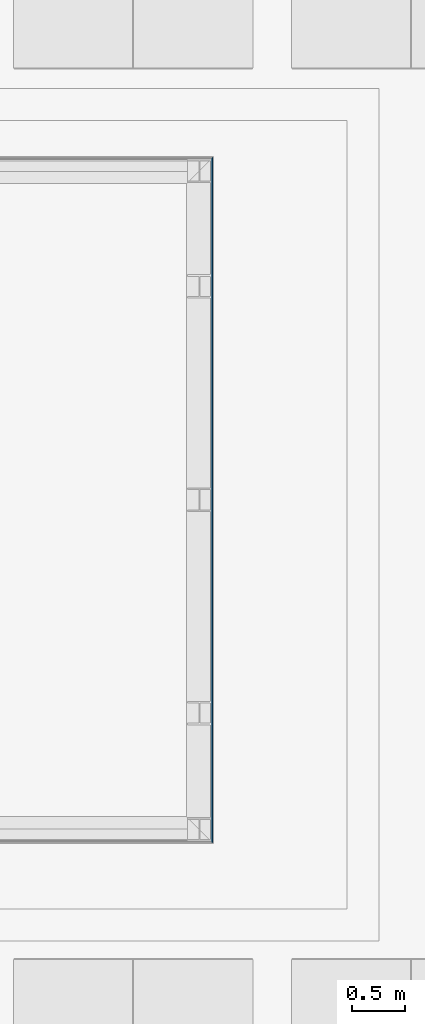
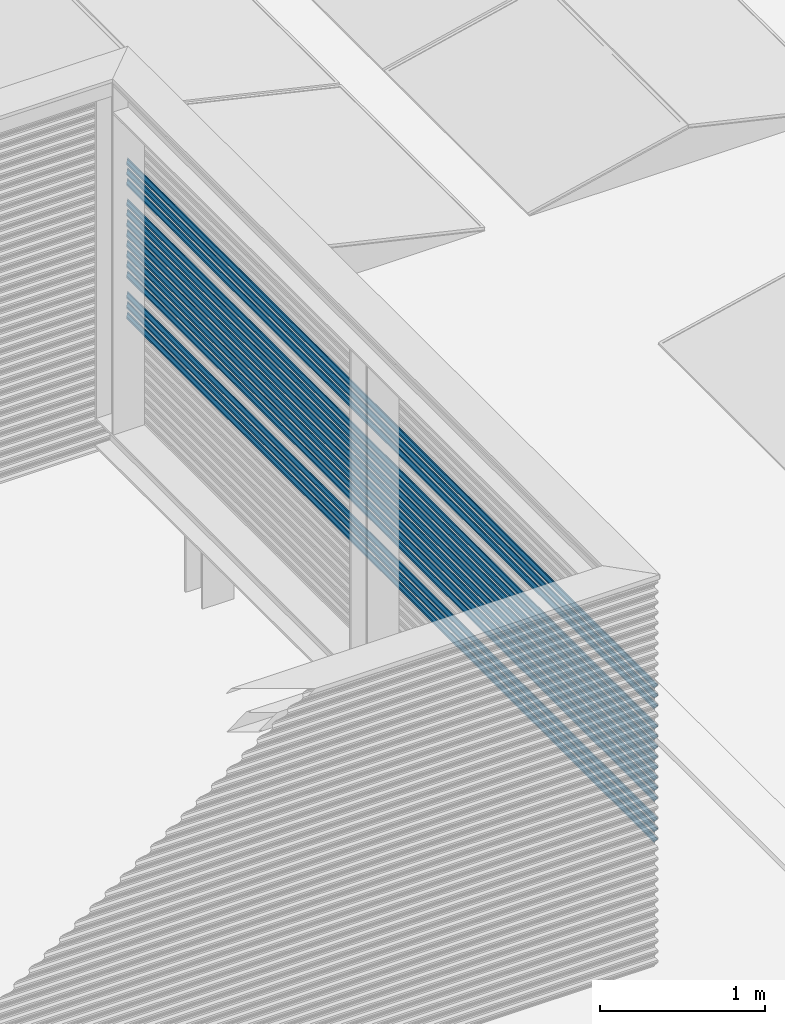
# One storey, part 38 of 63: 14 building element parts, 1 element without a shape of its own.
"""IFC2X3 building model written with IfcOpenShell, lengths in millimetres."""

import ifcopenshell
import ifcopenshell.guid

model = None  # the IFC model being written
_history = None  # IfcOwnerHistory: only IFC2X3 demands one
_inside = {}  # id of a spatial element -> (the spatial element, [elements in it])
_under = {}  # id of a project, library or spatial element -> (it, [spatial elements below it])
_declared = {}  # id of a project -> (the project, [libraries it declares])
_typed = {}  # id of a type object -> (the type object, [elements of that type])
_made_of = {}  # id of a material, layer set ... -> (it, [elements and type objects made of it])


def new_model(schema):
    """Start an empty IFC model of exactly this schema.

    Asked for "IFC4X3", IfcOpenShell would pick the latest addendum, in which some entities
    have other attributes; the version numbers below select the first issue.
    IFC2X3 requires an IfcOwnerHistory on every rooted entity: one is made here for all.
    """
    global model, _history
    if schema == "IFC4X3":
        model = ifcopenshell.file(schema_version=(4, 3, 0, 0))
    else:
        model = ifcopenshell.file(schema=schema)
    _inside.clear()
    _under.clear()
    _declared.clear()
    _typed.clear()
    _made_of.clear()
    _history = None
    if model.schema == "IFC2X3":
        org = make("IfcOrganization", Name="unknown")
        user = make(
            "IfcPersonAndOrganization",
            ThePerson=make("IfcPerson", FamilyName="unknown"),
            TheOrganization=org,
        )
        app = make(
            "IfcApplication",
            ApplicationDeveloper=org,
            Version="unknown",
            ApplicationFullName="unknown",
            ApplicationIdentifier="unknown",
        )
        _history = make(
            "IfcOwnerHistory",
            OwningUser=user,
            OwningApplication=app,
            ChangeAction="ADDED",
            CreationDate=0,
        )
    return model


def make(cls, **values):
    """One entity of the class cls with the attributes given. An attribute that is None is left unset."""
    return model.create_entity(
        cls, **{name: value for name, value in values.items() if value is not None}
    )


def entity(cls, *values):
    """Any entity or typed value of the class cls, its attributes in the order of the schema. None: left unset."""
    e = model.create_entity(cls)
    for i, value in enumerate(values):
        if value is not None:
            e[i] = value
    return e


def rooted(cls, **values):
    """An entity with a GlobalId (a new one), such as an element, a storey or a relation."""
    return make(cls, GlobalId=ifcopenshell.guid.new(), OwnerHistory=_history, **values)


def si_unit(unit_type, name, prefix=None):
    """IfcSIUnit, for example si_unit("LENGTHUNIT", "METRE", prefix="MILLI")."""
    return make("IfcSIUnit", UnitType=unit_type, Prefix=prefix, Name=name)


def converted_unit(unit_type, name, factor, base, dimensions=None, offset=None):
    """IfcConversionBasedUnit, such as the inch: factor (a typed value) times the base unit."""
    return make(
        "IfcConversionBasedUnit"
        if offset is None
        else "IfcConversionBasedUnitWithOffset",
        ConversionOffset=offset,
        Dimensions=None
        if dimensions is None
        else entity("IfcDimensionalExponents", *dimensions),
        UnitType=unit_type,
        Name=name,
        ConversionFactor=make(
            "IfcMeasureWithUnit", ValueComponent=factor, UnitComponent=base
        ),
    )


def derived_unit(unit_type, elements):
    """IfcDerivedUnit: a product of units, each with its exponent."""
    return make(
        "IfcDerivedUnit",
        Elements=[
            make("IfcDerivedUnitElement", Unit=unit, Exponent=power)
            for unit, power in elements
        ],
        UnitType=unit_type,
    )


def money_unit(currency):
    """IfcMonetaryUnit."""
    return make("IfcMonetaryUnit", Currency=currency)


def assignment(units):
    """IfcUnitAssignment: the units of a project."""
    return None if units is None else make("IfcUnitAssignment", Units=units)


def point(xyz):
    """IfcCartesianPoint."""
    return None if xyz is None else make("IfcCartesianPoint", Coordinates=xyz)


def direction(xyz):
    """IfcDirection."""
    return None if xyz is None else make("IfcDirection", DirectionRatios=xyz)


def frame(location, z_axis=None, x_axis=None):
    """IfcAxis2Placement3D, a coordinate frame: its origin and axes. An axis left out is left unset."""
    return make(
        "IfcAxis2Placement3D",
        Location=point(location),
        Axis=direction(z_axis),
        RefDirection=direction(x_axis),
    )


def origin_with_axes():
    """The frame at (0, 0, 0) with the z axis (0, 0, 1) and the x axis (1, 0, 0) written out."""
    return frame((0.0, 0.0, 0.0), z_axis=(0.0, 0.0, 1.0), x_axis=(1.0, 0.0, 0.0))


def place(relative_to, where):
    """IfcLocalPlacement: puts the frame where relative to a parent placement (None: the world)."""
    return make(
        "IfcLocalPlacement", PlacementRelTo=relative_to, RelativePlacement=where
    )


def context(
    kind, dimensions, precision=None, world=None, true_north=None, identifier=None
):
    """IfcGeometricRepresentationContext, for example the 3D "Model" context."""
    return make(
        "IfcGeometricRepresentationContext",
        ContextIdentifier=identifier,
        ContextType=kind,
        CoordinateSpaceDimension=dimensions,
        Precision=precision,
        WorldCoordinateSystem=world,
        TrueNorth=true_north,
    )


def subcontext(parent, identifier, kind, view, scale=None):
    """IfcGeometricRepresentationSubContext, for example "Body" below "Model"."""
    return make(
        "IfcGeometricRepresentationSubContext",
        ContextIdentifier=identifier,
        ContextType=kind,
        ParentContext=parent,
        TargetScale=scale,
        TargetView=view,
    )


def project(units=None, contexts=None):
    """IfcProject with its units and contexts."""
    return rooted(
        "IfcProject",
        Name="project",
        RepresentationContexts=contexts,
        UnitsInContext=assignment(units),
    )


def spatial(cls, under=None, at=None, **own):
    """A site, building, storey or space (cls), placed at a placement, below another one or the project."""
    s = rooted(cls, ObjectPlacement=at, **own)
    if under is not None:
        _under.setdefault(under.id(), (under, []))[1].append(s)
    return s


def faces_of(points, faces, orient=None, outer=None):
    """IfcFace entities. A face is a list of loops; a loop is a list of indices into points, from 0.

    orient and outer hold one flag for each loop. By default every Orientation is true, the
    first loop of a face is its IfcFaceOuterBound and the others are IfcFaceBound.
    """
    made = []
    for i, loops in enumerate(faces):
        bounds = []
        for j, loop in enumerate(loops):
            is_outer = j == 0 if outer is None else outer[i][j]
            bounds.append(
                make(
                    "IfcFaceOuterBound" if is_outer else "IfcFaceBound",
                    Bound=make("IfcPolyLoop", Polygon=[points[k] for k in loop]),
                    Orientation=True if orient is None else orient[i][j],
                )
            )
        made.append(make("IfcFace", Bounds=bounds))
    return made


def faceted_brep(points, faces, orient=None, outer=None, voids=None):
    """IfcFacetedBrep: a solid bounded by flat faces; with voids (closed shells), ...WithVoids."""
    shared = [point(p) for p in points]
    hull = make("IfcClosedShell", CfsFaces=faces_of(shared, faces, orient, outer))
    if voids is None:
        return make("IfcFacetedBrep", Outer=hull)
    return make(
        "IfcFacetedBrepWithVoids",
        Outer=hull,
        Voids=[
            make(cls, CfsFaces=faces_of(shared, fs, o, b)) for cls, fs, o, b in voids
        ],
    )


def shape(context_of_items, identifier, shape_type, items):
    """IfcShapeRepresentation: the items that make up one representation, for example the "Body"."""
    return make(
        "IfcShapeRepresentation",
        ContextOfItems=context_of_items,
        RepresentationIdentifier=identifier,
        RepresentationType=shape_type,
        Items=items,
    )


def material(Name=None, Category=None):
    """IfcMaterial."""
    return make("IfcMaterial", Name=Name, Category=Category)


def made_of(thing, what):
    """Note that an element or type object is made of a material, layer set ...; save() writes the relation."""
    if what is not None:
        _made_of.setdefault(what.id(), (what, []))[1].append(thing)
    return thing


def type_object(cls, material=None, **own):
    """A type object (cls), such as IfcWallType, which elements share."""
    return made_of(rooted(cls, **own), material)


def element(
    cls,
    number,
    at=None,
    inside=None,
    cuts=None,
    type_object=None,
    material=None,
    context=None,
    identifier="Body",
    shape_type=None,
    held_by="IfcProductDefinitionShape",
    body=None,
    shapes=None,
    **own,
):
    """One element of the class cls, such as IfcWall. Its Tag is "e" and its number.

    at: its placement. inside: the storey or other place that contains it. cuts: it is an
    opening in that element (IfcRelVoidsElement). A single representation is given by context,
    identifier, shape_type and body (its items); several are given by shapes. held_by: the class
    of the entity that holds the representations. save() writes the other relations.
    """
    e = rooted(cls, Tag="e%d" % number, ObjectPlacement=at, **own)
    if body is not None:
        shapes = [shape(context, identifier, shape_type, body)]
    if shapes is not None:
        e.Representation = make(held_by, Representations=shapes)
    if inside is not None:
        _inside.setdefault(inside.id(), (inside, []))[1].append(e)
    if cuts is not None:
        rooted(
            "IfcRelVoidsElement", RelatingBuildingElement=cuts, RelatedOpeningElement=e
        )
    if type_object is not None:
        _typed.setdefault(type_object.id(), (type_object, []))[1].append(e)
    return made_of(e, material)


def aggregate(whole, parts):
    """IfcRelAggregates: a whole, such as a stair, and the parts it consists of."""
    return rooted("IfcRelAggregates", RelatingObject=whole, RelatedObjects=parts)


def save(model, path):
    """Write the relations noted so far, then the file.

    IfcRelAggregates (storeys below a building ...), IfcRelContainedInSpatialStructure (elements
    in a storey), IfcRelDefinesByType, IfcRelAssociatesMaterial and IfcRelDeclares: one each for
    every whole, place, type object, material and project.
    """
    for whole, parts in _under.values():
        aggregate(whole, parts)
    for where, things in _inside.values():
        rooted(
            "IfcRelContainedInSpatialStructure",
            RelatedElements=things,
            RelatingStructure=where,
        )
    for kind, things in _typed.values():
        rooted("IfcRelDefinesByType", RelatedObjects=things, RelatingType=kind)
    for what, things in _made_of.values():
        rooted("IfcRelAssociatesMaterial", RelatedObjects=things, RelatingMaterial=what)
    for by, libraries in _declared.values():
        rooted("IfcRelDeclares", RelatingContext=by, RelatedDefinitions=libraries)
    model.write(path)


model = new_model("IFC2X3")

# Units and contexts
model_context = context("Model", 3, precision=0.01, world=origin_with_axes(), true_north=direction((0.0, 1.0)))
body_context = subcontext(model_context, "Body", "Model", "MODEL_VIEW")
ifc_project = project(units=[si_unit("LENGTHUNIT", "METRE", prefix="MILLI"), si_unit("AREAUNIT", "SQUARE_METRE"), si_unit("VOLUMEUNIT", "CUBIC_METRE"), converted_unit("PLANEANGLEUNIT", "DEGREE", entity("IfcPlaneAngleMeasure", 0.0174532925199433), si_unit("PLANEANGLEUNIT", "RADIAN"), dimensions=[0, 0, 0, 0, 0, 0, 0]), money_unit("EUR"), converted_unit("TIMEUNIT", "Year", entity("IfcTimeMeasure", 31557600.0), si_unit("TIMEUNIT", "SECOND"), dimensions=[0, 0, 1, 0, 0, 0, 0]), si_unit("MASSUNIT", "GRAM", prefix="KILO"), si_unit("THERMODYNAMICTEMPERATUREUNIT", "DEGREE_CELSIUS"), si_unit("LUMINOUSINTENSITYUNIT", "LUMEN"), si_unit("ENERGYUNIT", "JOULE", prefix="MEGA"), derived_unit("THERMALCONDUCTANCEUNIT", [(si_unit("POWERUNIT", "WATT"), 1), (si_unit("LENGTHUNIT", "METRE"), -1), (si_unit("THERMODYNAMICTEMPERATUREUNIT", "KELVIN"), -1)]), derived_unit("SPECIFICHEATCAPACITYUNIT", [(si_unit("ENERGYUNIT", "JOULE"), 1), (si_unit("MASSUNIT", "GRAM", prefix="KILO"), -1), (si_unit("THERMODYNAMICTEMPERATUREUNIT", "KELVIN"), -1)]), derived_unit("MASSDENSITYUNIT", [(si_unit("MASSUNIT", "GRAM", prefix="KILO"), 1), (si_unit("VOLUMEUNIT", "CUBIC_METRE"), -1)])], contexts=[model_context])

# Site, building, storey
site_placement = place(None, origin_with_axes())
site = spatial("IfcSite", under=ifc_project, at=site_placement, Name="<site naam>", CompositionType="ELEMENT")
building_placement = place(site_placement, origin_with_axes())
building = spatial("IfcBuilding", under=site, at=building_placement, Name="<Naam gebouw>", CompositionType="ELEMENT")
storey_placement = place(building_placement, frame((0.0, 0.0, 12770.0), z_axis=(0.0, 0.0, 1.0), x_axis=(1.0, 0.0, 0.0)))
storey = spatial("IfcBuildingStorey", under=building, at=storey_placement, Name="04 4e verdieping", CompositionType="ELEMENT", Elevation=12770.0)

# Wall, building element parts
wall_type = type_object("IfcWallType", Name="Gevelbeplating golf 18 x 2900", PredefinedType="NOTDEFINED")
wall_placement = place(storey_placement, frame((58128.00007858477, 6781.999921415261, 299.9552842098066), z_axis=(0.0, 0.0, 1.0), x_axis=(0.0, 1.0, 0.0)))
wall = element("IfcWall", 1, at=wall_placement, inside=storey, type_object=wall_type, Name="47_Binnenwand_Gevelbeplating")
ifc_material = material(Name="gevelafwerking type 3 - Aluminium RAL1036")
building_element_part_1_placement = place(wall_placement, origin_with_axes())
building_element_part_1 = element("IfcBuildingElementPart", 2, at=building_element_part_1_placement, material=ifc_material, Name="gevelafwerking type 3 - Aluminium RAL1036", context=body_context, shape_type="Brep", body=[
    faceted_brep([(0.9999738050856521, 0.9999738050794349, 949.9999999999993), (0.9999738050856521, -2.619491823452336e-05, 949.9999999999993), (6436.000223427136, -2.619491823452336e-05, 949.9999895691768), (6436.000223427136, 0.9999738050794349, 949.9999895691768), (3.116452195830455, 2.188207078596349, 939.8876744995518), (3.116452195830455, 3.116452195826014, 939.8876744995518), (3.340087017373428, 2.25733250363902, 939.5682295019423), (6433.742841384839, 2.25733250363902, 939.5682295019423), (6433.742841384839, 3.340087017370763, 939.5682295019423), (6433.811967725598, 3.116452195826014, 939.8876744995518), (9.041557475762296, 9.041557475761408, 931.4241211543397), (9.041557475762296, 8.209504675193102, 931.4241211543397), (9.398116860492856, 8.55522641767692, 930.9510868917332), (6427.444962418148, 8.55522641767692, 930.9510868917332), (6427.444962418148, 9.39811686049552, 930.9510868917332), (6427.790681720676, 9.041557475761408, 931.4241211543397), (15.62923668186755, 15.62923668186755, 922.6844886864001), (15.62923668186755, 14.54422012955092, 922.6844886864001), (15.69997002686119, 14.77517089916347, 922.3657061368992), (6421.224997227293, 14.77517089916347, 922.3657061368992), (6421.224997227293, 15.69997002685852, 922.3657061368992), (6421.45594986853, 15.62923668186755, 922.6844886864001), (17.99997380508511, 17.99997380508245, 911.9999999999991), (17.99997380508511, 16.99997142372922, 911.9999999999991), (6419.000198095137, 16.99997142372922, 912.0000193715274), (6419.000198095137, 17.99997380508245, 912.0000193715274)], [[[0, 1, 2, 3]], [[4, 1, 0, 5]], [[4, 6, 7, 2, 1]], [[3, 2, 7, 8, 9]], [[5, 0, 3, 9]], [[6, 4, 5, 10, 11]], [[11, 12, 13, 7, 6]], [[8, 7, 13, 14, 15]], [[10, 5, 9, 8, 15]], [[12, 11, 10, 16, 17]], [[17, 18, 19, 13, 12]], [[14, 13, 19, 20, 21]], [[16, 10, 15, 14, 21]], [[18, 17, 16, 22, 23]], [[18, 23, 24, 19]], [[20, 19, 24, 25]], [[22, 16, 21, 20, 25]], [[23, 22, 25, 24]]]),
])
building_element_part_2_placement = place(wall_placement, origin_with_axes())
building_element_part_2 = element("IfcBuildingElementPart", 3, at=building_element_part_2_placement, material=ifc_material, Name="gevelafwerking type 3 - Aluminium RAL1036", context=body_context, shape_type="Brep", body=[
    faceted_brep([(0.9999666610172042, 0.9999666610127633, 1254.0), (0.9999666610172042, -3.333898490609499e-05, 1254.0), (6436.000218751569, -3.333898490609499e-05, 1254.000010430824), (6436.000218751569, 0.9999666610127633, 1254.000010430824), (3.116445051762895, 2.188195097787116, 1243.887674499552), (3.116445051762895, 3.116445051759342, 1243.887674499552), (3.34009552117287, 2.257325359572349, 1243.568207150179), (6433.742836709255, 2.257325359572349, 1243.568207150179), (6433.742836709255, 3.340095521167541, 1243.568207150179), (6433.811958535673, 3.116445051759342, 1243.887674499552), (9.041550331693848, 8.20951277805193, 1235.42412115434), (9.041550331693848, 9.041550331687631, 1235.42412115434), (9.398093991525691, 8.555219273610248, 1234.95110775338), (6427.444962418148, 8.555219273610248, 1234.95110775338), (6427.790663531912, 9.041550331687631, 1235.42412115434), (6427.444962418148, 9.39809399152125, 1234.95110775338), (15.62922953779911, 15.62922953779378, 1226.6844886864), (15.62922953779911, 14.54419679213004, 1226.6844886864), (15.69996784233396, 14.7751637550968, 1226.365683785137), (6421.225040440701, 14.7751637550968, 1226.365683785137), (6421.456006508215, 15.62922953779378, 1226.6844886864), (6421.225040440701, 15.69996784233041, 1226.365683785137), (17.99996666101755, 17.99996666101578, 1215.999999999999), (17.99996666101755, 16.99996427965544, 1215.999999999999), (6419.000241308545, 16.99996427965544, 1215.999997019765), (6419.000241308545, 17.99996666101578, 1215.999997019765)], [[[0, 1, 2, 3]], [[4, 1, 0, 5]], [[4, 6, 7, 2, 1]], [[8, 9, 3, 2, 7]], [[5, 0, 3, 9]], [[10, 6, 4, 5, 11]], [[10, 12, 13, 7, 6]], [[11, 5, 9, 8, 14]], [[15, 14, 8, 7, 13]], [[12, 10, 11, 16, 17]], [[17, 18, 19, 13, 12]], [[16, 11, 14, 15, 20]], [[21, 20, 15, 13, 19]], [[18, 17, 16, 22, 23]], [[18, 23, 24, 19]], [[22, 16, 20, 21, 25]], [[24, 25, 21, 19]], [[23, 22, 25, 24]]]),
])
building_element_part_3_placement = place(wall_placement, origin_with_axes())
building_element_part_3 = element("IfcBuildingElementPart", 4, at=building_element_part_3_placement, material=ifc_material, Name="gevelafwerking type 3 - Aluminium RAL1036", context=body_context, shape_type="Brep", body=[
    faceted_brep([(0.9999642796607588, 0.9999642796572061, 1330.0), (0.9999642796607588, -3.572034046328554e-05, 1330.0), (6436.000223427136, -3.572034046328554e-05, 1329.999994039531), (6436.000223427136, 0.9999642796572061, 1329.999994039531), (3.11644267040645, 2.188189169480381, 1319.887674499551), (3.11644267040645, 3.116442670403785, 1319.887674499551), (3.340104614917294, 2.257322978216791, 1319.568190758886), (6433.742884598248, 2.257322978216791, 1319.568190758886), (6433.742884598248, 3.340104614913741, 1319.568190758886), (6433.812017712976, 3.116442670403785, 1319.887674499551), (9.041547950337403, 9.041547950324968, 1311.424121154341), (9.041547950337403, 8.20949841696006, 1311.424121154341), (9.398103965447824, 8.555216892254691, 1310.951091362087), (6427.444962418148, 8.555216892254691, 1310.951091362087), (6427.444962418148, 9.39810396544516, 1310.951091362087), (6427.79068255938, 9.041547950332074, 1311.424121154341), (15.62922715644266, 15.62922715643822, 1302.684488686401), (15.62922715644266, 14.54418253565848, 1302.684488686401), (15.69996909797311, 14.77516137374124, 1302.365667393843), (6421.2250404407, 14.77516137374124, 1302.365667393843), (6421.2250404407, 15.699969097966, 1302.365667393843), (6421.456018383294, 15.62922715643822, 1302.684488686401), (17.99996427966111, 17.99996427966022, 1292.0), (17.99996427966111, 16.99996189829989, 1292.0), (6419.000241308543, 16.99996189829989, 1291.999980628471), (6419.000241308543, 17.99996427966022, 1291.999980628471)], [[[0, 1, 2, 3]], [[4, 1, 0, 5]], [[4, 6, 7, 2, 1]], [[3, 2, 7, 8, 9]], [[5, 0, 3, 9]], [[6, 4, 5, 10, 11]], [[11, 12, 13, 7, 6]], [[8, 7, 13, 14, 15]], [[10, 5, 9, 8, 15]], [[12, 11, 10, 16, 17]], [[17, 18, 19, 13, 12]], [[14, 13, 19, 20, 21]], [[16, 10, 15, 14, 21]], [[18, 17, 16, 22, 23]], [[18, 23, 24, 19]], [[20, 19, 24, 25]], [[22, 16, 21, 20, 25]], [[23, 22, 25, 24]]]),
])
building_element_part_4_placement = place(wall_placement, origin_with_axes())
building_element_part_4 = element("IfcBuildingElementPart", 5, at=building_element_part_4_placement, material=ifc_material, Name="gevelafwerking type 3 - Aluminium RAL1036", context=body_context, shape_type="Brep", body=[
    faceted_brep([(0.9999690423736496, 0.9999690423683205, 1102.0), (0.9999690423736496, -3.095762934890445e-05, 1102.0), (6436.000223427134, -3.095762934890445e-05, 1102.0), (6436.000223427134, 0.9999690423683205, 1102.0), (3.116447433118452, 2.188195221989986, 1091.887674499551), (3.116447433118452, 3.116447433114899, 1091.887674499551), (3.340105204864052, 2.257327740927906, 1091.568196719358), (6433.742836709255, 2.257327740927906, 1091.568196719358), (6433.742836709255, 3.340105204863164, 1091.568196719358), (6433.811965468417, 3.116447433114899, 1091.887674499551), (9.041552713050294, 8.209507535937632, 1083.424121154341), (9.041552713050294, 9.041552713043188, 1083.424121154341), (9.398104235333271, 8.555221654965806, 1082.951097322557), (6427.444962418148, 8.555221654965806, 1082.951097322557), (6427.790671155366, 9.041552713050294, 1083.424121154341), (6427.444962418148, 9.398104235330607, 1082.951097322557), (15.62923191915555, 15.62923191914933, 1074.684488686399), (15.62923191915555, 14.54419161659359, 1074.684488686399), (15.69997253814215, 14.77516613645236, 1074.365673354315), (6421.225040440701, 14.77516613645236, 1074.365673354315), (6421.456014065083, 15.62923191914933, 1074.684488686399), (6421.225040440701, 15.69997253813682, 1074.365673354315), (17.99996904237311, 17.99996904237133, 1064.0), (17.99996904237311, 16.99996666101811, 1064.0), (6419.000241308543, 16.99996666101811, 1063.999986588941), (6419.000241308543, 17.99996904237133, 1063.999986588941)], [[[0, 1, 2, 3]], [[4, 1, 0, 5]], [[4, 6, 7, 2, 1]], [[8, 9, 3, 2, 7]], [[5, 0, 3, 9]], [[10, 6, 4, 5, 11]], [[10, 12, 13, 7, 6]], [[11, 5, 9, 8, 14]], [[15, 14, 8, 7, 13]], [[12, 10, 11, 16, 17]], [[17, 18, 19, 13, 12]], [[16, 11, 14, 15, 20]], [[21, 20, 15, 13, 19]], [[18, 17, 16, 22, 23]], [[18, 23, 24, 19]], [[22, 16, 20, 21, 25]], [[24, 25, 21, 19]], [[23, 22, 25, 24]]]),
])
building_element_part_5_placement = place(wall_placement, origin_with_axes())
building_element_part_5 = element("IfcBuildingElementPart", 6, at=building_element_part_5_placement, material=ifc_material, Name="gevelafwerking type 3 - Aluminium RAL1036", context=body_context, shape_type="Brep", body=[
    faceted_brep([(0.9999714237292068, 0.9999714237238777, 1026.0), (0.9999714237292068, -2.85762737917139e-05, 1026.0), (6436.000218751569, -2.85762737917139e-05, 1026.000016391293), (6436.000218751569, 0.9999714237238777, 1026.000016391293), (3.116449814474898, 2.18820115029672, 1015.887674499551), (3.116449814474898, 3.116449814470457, 1015.887674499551), (3.340096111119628, 2.257330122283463, 1015.568213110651), (6433.742836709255, 2.257330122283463, 1015.568213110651), (6433.742836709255, 3.340096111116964, 1015.568213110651), (6433.811957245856, 3.116449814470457, 1015.887674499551), (9.041555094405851, 8.209521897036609, 1007.42412115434), (9.041555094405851, 9.041555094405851, 1007.42412115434), (9.398094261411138, 8.555224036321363, 1006.95111371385), (6427.444962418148, 8.555224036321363, 1006.95111371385), (6427.790659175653, 9.041555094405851, 1007.42412115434), (6427.444962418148, 9.398094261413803, 1006.95111371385), (15.62923430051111, 15.629234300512, 998.6844886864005), (15.62923430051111, 14.54420587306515, 998.6844886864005), (15.69997128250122, 14.77516851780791, 998.3656897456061), (6421.2250404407, 14.77516851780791, 998.3656897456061), (6421.456002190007, 15.629234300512, 998.6844886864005), (6421.2250404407, 15.69997128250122, 998.3656897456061), (17.99997142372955, 17.99997142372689, 987.9999999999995), (17.99997142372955, 16.99996904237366, 987.9999999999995), (6419.000198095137, 16.99996904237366, 988.0000029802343), (6419.000198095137, 17.99997142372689, 988.0000029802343)], [[[0, 1, 2, 3]], [[4, 1, 0, 5]], [[4, 6, 7, 2, 1]], [[8, 9, 3, 2, 7]], [[5, 0, 3, 9]], [[10, 6, 4, 5, 11]], [[10, 12, 13, 7, 6]], [[11, 5, 9, 8, 14]], [[15, 14, 8, 7, 13]], [[12, 10, 11, 16, 17]], [[17, 18, 19, 13, 12]], [[16, 11, 14, 15, 20]], [[21, 20, 15, 13, 19]], [[18, 17, 16, 22, 23]], [[18, 23, 24, 19]], [[22, 16, 20, 21, 25]], [[24, 25, 21, 19]], [[23, 22, 25, 24]]]),
])
building_element_part_6_placement = place(wall_placement, origin_with_axes())
building_element_part_6 = element("IfcBuildingElementPart", 7, at=building_element_part_6_placement, material=ifc_material, Name="gevelafwerking type 3 - Aluminium RAL1036", context=body_context, shape_type="Brep", body=[
    faceted_brep([(0.9999618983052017, 0.9999618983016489, 1406.000000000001), (0.9999618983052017, -3.810169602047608e-05, 1406.000000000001), (6436.000223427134, -3.810169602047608e-05, 1406.000020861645), (6436.000223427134, 0.9999618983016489, 1406.000020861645), (3.116440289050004, 2.188192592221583, 1395.887674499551), (3.116440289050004, 3.116440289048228, 1395.887674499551), (3.34008345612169, 2.257320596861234, 1395.568217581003), (6433.742884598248, 2.257320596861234, 1395.568217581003), (6433.742884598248, 3.340083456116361, 1395.568217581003), (6433.812011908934, 3.116440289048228, 1395.887674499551), (9.041545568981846, 9.041545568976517, 1387.424121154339), (9.041545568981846, 8.209515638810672, 1387.424121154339), (9.398081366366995, 8.555214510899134, 1386.951118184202), (6427.444962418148, 8.555214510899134, 1386.951118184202), (6427.444962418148, 9.398081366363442, 1386.951118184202), (6427.790662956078, 9.041545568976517, 1387.424121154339), (15.6292247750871, 15.62922477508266, 1378.6844886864), (15.6292247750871, 14.54419958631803, 1378.6844886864), (15.69996076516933, 14.77515899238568, 1378.36569421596), (6421.2250404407, 14.77515899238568, 1378.36569421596), (6421.2250404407, 15.69996076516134, 1378.36569421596), (6421.45599895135, 15.62922477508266, 1378.6844886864), (17.99996189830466, 17.99996189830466, 1368.0), (17.99996189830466, 16.99995951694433, 1368.0), (6419.000241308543, 16.99995951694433, 1368.000007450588), (6419.000241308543, 17.99996189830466, 1368.000007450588)], [[[0, 1, 2, 3]], [[4, 1, 0, 5]], [[4, 6, 7, 2, 1]], [[3, 2, 7, 8, 9]], [[5, 0, 3, 9]], [[6, 4, 5, 10, 11]], [[11, 12, 13, 7, 6]], [[8, 7, 13, 14, 15]], [[10, 5, 9, 8, 15]], [[12, 11, 10, 16, 17]], [[17, 18, 19, 13, 12]], [[14, 13, 19, 20, 21]], [[16, 10, 15, 14, 21]], [[18, 17, 16, 22, 23]], [[18, 23, 24, 19]], [[20, 19, 24, 25]], [[22, 16, 21, 20, 25]], [[23, 22, 25, 24]]]),
])
building_element_part_7_placement = place(wall_placement, origin_with_axes())
building_element_part_7 = element("IfcBuildingElementPart", 8, at=building_element_part_7_placement, material=ifc_material, Name="gevelafwerking type 3 - Aluminium RAL1036", context=body_context, shape_type="Brep", body=[
    faceted_brep([(0.9999571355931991, 0.9999571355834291, 1558.0), (0.9999571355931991, -4.286440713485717e-05, 1558.0), (6436.000218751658, -4.286440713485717e-05, 1557.999988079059), (6436.000218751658, 0.9999571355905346, 1557.999988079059), (3.116435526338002, 2.18819008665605, 1547.887674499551), (3.116435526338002, 3.116435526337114, 1547.887674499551), (3.340071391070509, 2.25731583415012, 1547.568228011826), (6433.742884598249, 2.25731583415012, 1547.568228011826), (6433.742884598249, 3.340071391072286, 1547.568228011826), (6433.812014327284, 3.116435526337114, 1547.887674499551), (9.041540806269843, 8.209518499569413, 1539.42412115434), (9.041540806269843, 9.041540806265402, 1539.42412115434), (9.398068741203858, 8.55520974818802, 1538.951128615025), (6427.444962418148, 8.55520974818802, 1538.951128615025), (6427.790655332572, 9.041540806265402, 1539.42412115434), (6427.444962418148, 9.398068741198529, 1538.951128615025), (15.6292200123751, 15.62922001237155, 1530.684488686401), (15.6292200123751, 14.54420238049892, 1530.684488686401), (15.6999536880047, 14.77515422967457, 1530.365704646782), (6421.225040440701, 14.77515422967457, 1530.365704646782), (6421.455991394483, 15.62922001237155, 1530.684488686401), (6421.225040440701, 15.69995368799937, 1530.365704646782), (17.99995713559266, 17.99995713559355, 1520.0), (17.99995713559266, 16.99995475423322, 1520.0), (6419.000241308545, 16.99995475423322, 1520.00001788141), (6419.000241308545, 17.99995713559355, 1520.00001788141)], [[[0, 1, 2, 3]], [[4, 1, 0, 5]], [[4, 6, 7, 2, 1]], [[8, 9, 3, 2, 7]], [[5, 0, 3, 9]], [[10, 6, 4, 5, 11]], [[10, 12, 13, 7, 6]], [[11, 5, 9, 8, 14]], [[15, 14, 8, 7, 13]], [[12, 10, 11, 16, 17]], [[17, 18, 19, 13, 12]], [[16, 11, 14, 15, 20]], [[21, 20, 15, 13, 19]], [[18, 17, 16, 22, 23]], [[18, 23, 24, 19]], [[22, 16, 20, 21, 25]], [[24, 25, 21, 19]], [[23, 22, 25, 24]]]),
])
building_element_part_8_placement = place(wall_placement, origin_with_axes())
building_element_part_8 = element("IfcBuildingElementPart", 9, at=building_element_part_8_placement, material=ifc_material, Name="gevelafwerking type 3 - Aluminium RAL1036", context=body_context, shape_type="Brep", body=[
    faceted_brep([(0.9999547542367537, 0.9999547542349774, 1633.999999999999), (0.9999547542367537, -4.524576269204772e-05, 1633.999999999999), (6436.000223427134, -4.524576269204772e-05, 1634.000014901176), (6436.000223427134, 0.9999547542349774, 1634.000014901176), (3.116433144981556, 2.188184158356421, 1623.887674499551), (3.116433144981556, 3.116433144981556, 1623.887674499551), (3.34008048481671, 2.257313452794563, 1623.568211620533), (6433.742884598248, 2.257313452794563, 1623.568211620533), (6433.742884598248, 3.340080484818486, 1623.568211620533), (6433.81201319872, 3.116433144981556, 1623.887674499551), (9.041538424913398, 9.04153842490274, 1615.424121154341), (9.041538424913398, 8.209504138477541, 1615.424121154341), (9.398078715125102, 8.555207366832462, 1614.951112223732), (6427.444962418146, 8.555207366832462, 1614.951112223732), (6427.444962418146, 9.398078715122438, 1614.951112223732), (6427.790667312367, 9.041538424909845, 1615.424121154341), (15.62921763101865, 15.62921763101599, 1606.684488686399), (15.62921763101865, 14.54418812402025, 1606.684488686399), (15.69995494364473, 14.77515184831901, 1606.36568825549), (6421.225040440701, 14.77515184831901, 1606.36568825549), (6421.225040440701, 15.69995494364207, 1606.36568825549), (6421.456003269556, 15.62921763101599, 1606.684488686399), (17.9999547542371, 17.99995475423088, 1596.0), (17.9999547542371, 16.99995237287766, 1596.0), (6419.000241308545, 16.99995237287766, 1596.000001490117), (6419.000241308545, 17.99995475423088, 1596.000001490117)], [[[0, 1, 2, 3]], [[4, 1, 0, 5]], [[4, 6, 7, 2, 1]], [[3, 2, 7, 8, 9]], [[5, 0, 3, 9]], [[6, 4, 5, 10, 11]], [[11, 12, 13, 7, 6]], [[8, 7, 13, 14, 15]], [[10, 5, 9, 8, 15]], [[12, 11, 10, 16, 17]], [[17, 18, 19, 13, 12]], [[14, 13, 19, 20, 21]], [[16, 10, 15, 14, 21]], [[18, 17, 16, 22, 23]], [[18, 23, 24, 19]], [[20, 19, 24, 25]], [[22, 16, 21, 20, 25]], [[23, 22, 25, 24]]]),
])
building_element_part_9_placement = place(wall_placement, origin_with_axes())
building_element_part_9 = element("IfcBuildingElementPart", 10, at=building_element_part_9_placement, material=ifc_material, Name="gevelafwerking type 3 - Aluminium RAL1036", context=body_context, shape_type="Brep", body=[
    faceted_brep([(0.9999523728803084, 0.9999523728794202, 1709.999999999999), (0.9999523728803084, -4.762712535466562e-05, 1709.999999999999), (6436.000223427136, -4.762712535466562e-05, 1709.999998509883), (6436.000223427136, 0.9999523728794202, 1709.999998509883), (3.116430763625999, 2.188178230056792, 1699.887674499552), (3.116430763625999, 3.116430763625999, 1699.887674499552), (3.340089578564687, 2.257311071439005, 1699.56819522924), (6433.742884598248, 2.257311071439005, 1699.56819522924), (6433.742884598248, 3.340089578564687, 1699.56819522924), (6433.812016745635, 3.116430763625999, 1699.887674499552), (9.041536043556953, 9.041536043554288, 1691.424121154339), (9.041536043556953, 8.20948977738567, 1691.424121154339), (9.39808868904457, 8.555204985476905, 1690.951095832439), (6427.444962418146, 8.555204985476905, 1690.951095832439), (6427.444962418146, 9.398088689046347, 1690.951095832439), (6427.790679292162, 9.041536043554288, 1691.424121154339), (15.62921524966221, 15.62921524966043, 1682.6844886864), (15.62921524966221, 14.54417386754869, 1682.6844886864), (15.69995619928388, 14.77514946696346, 1682.365671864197), (6421.225040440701, 14.77514946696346, 1682.365671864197), (6421.225040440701, 15.69995619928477, 1682.365671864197), (6421.456015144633, 15.62921524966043, 1682.6844886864), (17.99995237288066, 17.99995237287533, 1671.999999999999), (17.99995237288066, 16.9999499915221, 1671.999999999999), (6419.000241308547, 16.9999499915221, 1671.999985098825), (6419.000241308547, 17.99995237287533, 1671.999985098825)], [[[0, 1, 2, 3]], [[4, 1, 0, 5]], [[4, 6, 7, 2, 1]], [[3, 2, 7, 8, 9]], [[5, 0, 3, 9]], [[6, 4, 5, 10, 11]], [[11, 12, 13, 7, 6]], [[8, 7, 13, 14, 15]], [[10, 5, 9, 8, 15]], [[12, 11, 10, 16, 17]], [[17, 18, 19, 13, 12]], [[14, 13, 19, 20, 21]], [[16, 10, 15, 14, 21]], [[18, 17, 16, 22, 23]], [[18, 23, 24, 19]], [[20, 19, 24, 25]], [[22, 16, 21, 20, 25]], [[23, 22, 25, 24]]]),
])
building_element_part_10_placement = place(wall_placement, origin_with_axes())
building_element_part_10 = element("IfcBuildingElementPart", 11, at=building_element_part_10_placement, material=ifc_material, Name="gevelafwerking type 3 - Aluminium RAL1036", context=body_context, shape_type="Brep", body=[
    faceted_brep([(0.9999499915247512, 0.999949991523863, 1786.0), (0.9999499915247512, -5.000848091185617e-05, 1786.0), (6436.000218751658, -5.000848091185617e-05, 1785.99998211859), (6436.000218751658, 0.999949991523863, 1785.99998211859), (3.116428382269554, 2.188181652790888, 1775.88767449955), (3.116428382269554, 3.116428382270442, 1775.88767449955), (3.340068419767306, 2.257308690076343, 1775.568222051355), (6433.742884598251, 2.257308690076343, 1775.568222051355), (6433.742884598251, 3.340068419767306, 1775.568222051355), (6433.812015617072, 3.116428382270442, 1775.88767449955), (9.041533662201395, 8.209506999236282, 1767.42412115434), (9.041533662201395, 9.041533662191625, 1767.42412115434), (9.398066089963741, 8.555202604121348, 1766.951122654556), (6427.445005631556, 8.555202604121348, 1766.951122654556), (6427.79070053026, 9.04153366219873, 1767.42412115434), (6427.445005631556, 9.39806608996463, 1766.951122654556), (15.62921286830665, 15.62921286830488, 1758.6844886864), (15.62921286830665, 14.54419091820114, 1758.6844886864), (15.69994786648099, 14.77514708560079, 1758.365698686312), (6421.225040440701, 14.77514708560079, 1758.365698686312), (6421.455997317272, 15.62921286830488, 1758.6844886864), (6421.225040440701, 15.6999478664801, 1758.365698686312), (17.99994999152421, 17.99994999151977, 1747.999999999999), (17.99994999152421, 16.99994761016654, 1747.999999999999), (6419.000241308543, 16.99994761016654, 1748.00001192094), (6419.000241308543, 17.99994999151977, 1748.00001192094)], [[[0, 1, 2, 3]], [[4, 1, 0, 5]], [[4, 6, 7, 2, 1]], [[8, 9, 3, 2, 7]], [[5, 0, 3, 9]], [[10, 6, 4, 5, 11]], [[10, 12, 13, 7, 6]], [[11, 5, 9, 8, 14]], [[15, 14, 8, 7, 13]], [[12, 10, 11, 16, 17]], [[17, 18, 19, 13, 12]], [[16, 11, 14, 15, 20]], [[21, 20, 15, 13, 19]], [[18, 17, 16, 22, 23]], [[18, 23, 24, 19]], [[22, 16, 20, 21, 25]], [[24, 25, 21, 19]], [[23, 22, 25, 24]]]),
])
building_element_part_11_placement = place(wall_placement, origin_with_axes())
building_element_part_11 = element("IfcBuildingElementPart", 12, at=building_element_part_11_placement, material=ifc_material, Name="gevelafwerking type 3 - Aluminium RAL1036", context=body_context, shape_type="Brep", body=[
    faceted_brep([(0.9999476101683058, 0.9999476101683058, 1937.999999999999), (0.9999476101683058, -5.238983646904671e-05, 1937.999999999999), (6436.000223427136, -5.238983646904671e-05, 1937.999992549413), (6436.000223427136, 0.9999476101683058, 1937.999992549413), (3.116426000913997, 2.188172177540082, 1927.887674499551), (3.116426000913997, 3.116426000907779, 1927.887674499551), (3.340088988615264, 2.257306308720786, 1927.56818926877), (6433.742884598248, 2.257306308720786, 1927.56818926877), (6433.742884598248, 3.340088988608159, 1927.56818926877), (6433.812018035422, 3.116426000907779, 1927.887674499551), (9.04153128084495, 9.041531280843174, 1919.424121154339), (9.04153128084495, 8.209480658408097, 1919.424121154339), (9.3980884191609, 8.55520022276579, 1918.951089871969), (6427.445005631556, 8.55520022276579, 1918.951089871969), (6427.445005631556, 9.3980884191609, 1918.951089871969), (6427.790724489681, 9.041531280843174, 1919.424121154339), (15.62921048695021, 15.62921048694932, 1910.6844886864), (15.62921048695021, 14.54416478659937, 1910.6844886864), (15.69995275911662, 14.77514470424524, 1910.365665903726), (6421.2250404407, 14.77514470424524, 1910.365665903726), (6421.2250404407, 15.69995275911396, 1910.365665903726), (6421.456021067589, 15.62921048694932, 1910.6844886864), (17.99994761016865, 17.99994761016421, 1900.0), (17.99994761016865, 16.99994522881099, 1900.0), (6419.000241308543, 16.99994522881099, 1899.999979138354), (6419.000241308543, 17.99994761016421, 1899.999979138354)], [[[0, 1, 2, 3]], [[4, 1, 0, 5]], [[4, 6, 7, 2, 1]], [[3, 2, 7, 8, 9]], [[5, 0, 3, 9]], [[6, 4, 5, 10, 11]], [[11, 12, 13, 7, 6]], [[8, 7, 13, 14, 15]], [[10, 5, 9, 8, 15]], [[12, 11, 10, 16, 17]], [[17, 18, 19, 13, 12]], [[14, 13, 19, 20, 21]], [[16, 10, 15, 14, 21]], [[18, 17, 16, 22, 23]], [[18, 23, 24, 19]], [[20, 19, 24, 25]], [[22, 16, 21, 20, 25]], [[23, 22, 25, 24]]]),
])
building_element_part_12_placement = place(wall_placement, origin_with_axes())
building_element_part_12 = element("IfcBuildingElementPart", 13, at=building_element_part_12_placement, material=ifc_material, Name="gevelafwerking type 3 - Aluminium RAL1036", context=body_context, shape_type="Brep", body=[
    faceted_brep([(0.9999595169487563, 0.9999595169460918, 1481.999999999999), (0.9999595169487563, -4.048305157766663e-05, 1481.999999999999), (6436.000223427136, -4.048305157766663e-05, 1482.000004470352), (6436.000223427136, 0.9999595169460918, 1482.000004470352), (3.116437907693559, 2.188186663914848, 1471.887674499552), (3.116437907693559, 3.116437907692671, 1471.887674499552), (3.34009254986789, 2.257318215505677, 1471.56820118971), (6433.742884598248, 2.257318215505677, 1471.56820118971), (6433.742884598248, 3.340092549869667, 1471.56820118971), (6433.812015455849, 3.116437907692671, 1471.887674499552), (9.0415431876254, 9.04154318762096, 1463.42412115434), (9.0415431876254, 8.2095012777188, 1463.42412115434), (9.398091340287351, 8.555212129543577, 1462.951101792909), (6427.444962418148, 8.555212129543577, 1462.951101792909), (6427.444962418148, 9.398091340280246, 1462.951101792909), (6427.790674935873, 9.04154318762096, 1463.42412115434), (15.62922239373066, 15.6292223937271, 1454.6844886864), (15.62922239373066, 14.54418532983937, 1454.6844886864), (15.69996202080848, 14.77515661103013, 1454.365677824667), (6421.225040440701, 14.77515661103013, 1454.365677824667), (6421.225040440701, 15.69996202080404, 1454.365677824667), (6421.456010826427, 15.6292223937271, 1454.6844886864), (17.9999595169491, 17.9999595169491, 1443.999999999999), (17.9999595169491, 16.99995713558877, 1443.999999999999), (6419.000241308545, 16.99995713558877, 1443.999991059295), (6419.000241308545, 17.9999595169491, 1443.999991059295)], [[[0, 1, 2, 3]], [[4, 1, 0, 5]], [[4, 6, 7, 2, 1]], [[3, 2, 7, 8, 9]], [[5, 0, 3, 9]], [[6, 4, 5, 10, 11]], [[11, 12, 13, 7, 6]], [[8, 7, 13, 14, 15]], [[10, 5, 9, 8, 15]], [[12, 11, 10, 16, 17]], [[17, 18, 19, 13, 12]], [[14, 13, 19, 20, 21]], [[16, 10, 15, 14, 21]], [[18, 17, 16, 22, 23]], [[18, 23, 24, 19]], [[20, 19, 24, 25]], [[22, 16, 21, 20, 25]], [[23, 22, 25, 24]]]),
])
building_element_part_13_placement = place(wall_placement, origin_with_axes())
building_element_part_13 = element("IfcBuildingElementPart", 14, at=building_element_part_13_placement, material=ifc_material, Name="gevelafwerking type 3 - Aluminium RAL1036", context=body_context, shape_type="Brep", body=[
    faceted_brep([(0.9999452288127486, 0.9999452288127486, 2013.999999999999), (0.9999452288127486, -5.477119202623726e-05, 2013.999999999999), (6436.000223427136, -5.477119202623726e-05, 2014.000019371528), (6436.000223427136, 0.9999452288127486, 2014.000019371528), (3.116423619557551, 2.188175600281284, 2003.88767449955), (3.116423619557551, 3.116423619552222, 2003.88767449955), (3.34006782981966, 2.257303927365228, 2003.568216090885), (6433.742884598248, 2.257303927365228, 2003.568216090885), (6433.742884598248, 3.340067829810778, 2003.568216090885), (6433.812012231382, 3.116423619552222, 2003.88767449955), (9.041528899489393, 9.041528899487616, 1995.42412115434), (9.041528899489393, 8.209497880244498, 1995.42412115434), (9.398065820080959, 8.555197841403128, 1994.951116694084), (6427.445005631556, 8.555197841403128, 1994.951116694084), (6427.445005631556, 9.398065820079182, 1994.951116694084), (6427.790704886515, 9.041528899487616, 1995.42412115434), (15.62920810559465, 15.62920810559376, 1986.6844886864), (15.62920810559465, 14.54418183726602, 1986.6844886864), (15.69994442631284, 14.77514232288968, 1986.365692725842), (6421.2250404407, 14.77514232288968, 1986.365692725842), (6421.2250404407, 15.69994442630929, 1986.365692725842), (6421.456001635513, 15.62920810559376, 1986.6844886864), (17.99994522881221, 17.99994522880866, 1975.999999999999), (17.99994522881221, 16.99994284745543, 1975.999999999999), (6419.000241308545, 16.99994284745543, 1976.00000596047), (6419.000241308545, 17.99994522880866, 1976.00000596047)], [[[0, 1, 2, 3]], [[4, 1, 0, 5]], [[4, 6, 7, 2, 1]], [[3, 2, 7, 8, 9]], [[5, 0, 3, 9]], [[6, 4, 5, 10, 11]], [[11, 12, 13, 7, 6]], [[8, 7, 13, 14, 15]], [[10, 5, 9, 8, 15]], [[12, 11, 10, 16, 17]], [[17, 18, 19, 13, 12]], [[14, 13, 19, 20, 21]], [[16, 10, 15, 14, 21]], [[18, 17, 16, 22, 23]], [[18, 23, 24, 19]], [[20, 19, 24, 25]], [[22, 16, 21, 20, 25]], [[23, 22, 25, 24]]]),
])
building_element_part_14_placement = place(wall_placement, origin_with_axes())
building_element_part_14 = element("IfcBuildingElementPart", 15, at=building_element_part_14_placement, material=ifc_material, Name="gevelafwerking type 3 - Aluminium RAL1036", context=body_context, shape_type="Brep", body=[
    faceted_brep([(0.9999428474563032, 0.9999428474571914, 2090.0), (0.9999428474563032, -5.71525475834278e-05, 2090.0), (6436.000266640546, -5.71525475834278e-05, 2090.000002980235), (6436.000266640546, 0.9999428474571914, 2090.000002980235), (3.116421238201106, 2.188169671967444, 2079.88767449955), (3.116421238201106, 3.116421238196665, 2079.88767449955), (3.340076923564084, 2.257301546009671, 2079.568199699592), (6433.742879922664, 2.257301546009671, 2079.568199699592), (6433.742879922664, 3.340076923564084, 2079.568199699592), (6433.812008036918, 3.116421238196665, 2079.88767449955), (9.041526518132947, 8.209483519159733, 2071.42412115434), (9.041526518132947, 9.04152651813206, 2071.42412115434), (9.398075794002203, 8.555195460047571, 2070.951100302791), (6427.445005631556, 8.555195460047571, 2070.951100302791), (6427.790712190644, 9.04152651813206, 2071.42412115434), (6427.445005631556, 9.398075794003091, 2070.951100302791), (15.6292057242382, 15.6292057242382, 2062.684488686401), (15.6292057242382, 14.54416758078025, 2062.684488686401), (15.69994568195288, 14.77513994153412, 2062.365676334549), (6421.225040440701, 14.77513994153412, 2062.365676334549), (6421.456013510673, 15.6292057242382, 2062.684488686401), (6421.225040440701, 15.69994568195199, 2062.365676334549), (17.99994284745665, 17.9999428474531, 2052.0), (17.99994284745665, 16.99994046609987, 2052.0), (6419.000241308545, 16.99994046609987, 2051.999989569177), (6419.000241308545, 17.9999428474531, 2051.999989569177)], [[[0, 1, 2, 3]], [[4, 1, 0, 5]], [[4, 6, 7, 2, 1]], [[8, 9, 3, 2, 7]], [[5, 0, 3, 9]], [[10, 6, 4, 5, 11]], [[10, 12, 13, 7, 6]], [[11, 5, 9, 8, 14]], [[15, 14, 8, 7, 13]], [[12, 10, 11, 16, 17]], [[17, 18, 19, 13, 12]], [[16, 11, 14, 15, 20]], [[21, 20, 15, 13, 19]], [[18, 17, 16, 22, 23]], [[18, 23, 24, 19]], [[22, 16, 20, 21, 25]], [[24, 25, 21, 19]], [[23, 22, 25, 24]]]),
])
aggregate(wall, [building_element_part_1, building_element_part_2, building_element_part_3, building_element_part_4, building_element_part_5, building_element_part_6, building_element_part_7, building_element_part_8, building_element_part_9, building_element_part_10, building_element_part_11, building_element_part_12, building_element_part_13, building_element_part_14])

save(model, "model.ifc")
